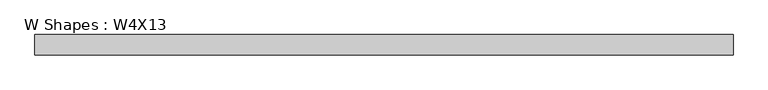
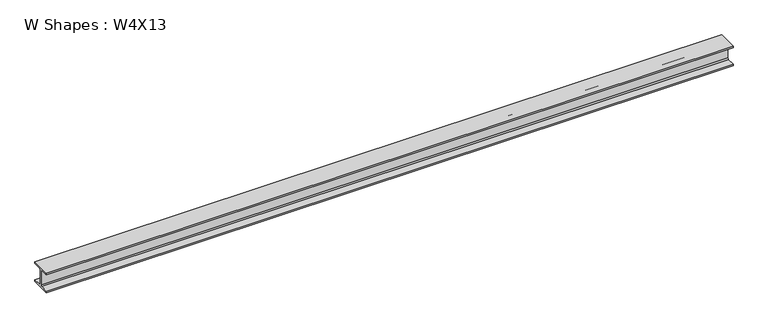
"""IFC4 building model written with IfcOpenShell, lengths in millimetres: beam geometry, W Shapes : W4X13."""

from ifc_helpers import new_model, si_unit, point, frame, frame_2d, origin, place, context, project, spatial, polyline, circle_curve, trimmed, segment, composite_curve, outline, extrude, source, transform, mapped, element, save


def w_shapes_w4x13_d1906dc2(model_context):
    return source(origin(), model_context, "Body", "SweptSolid", [
        extrude(outline(composite_curve([segment(polyline([(51.562, -44.069), (51.562, -52.832), (-51.562, -52.832), (-51.562, -44.069), (-9.906, -44.069)]), True, "CONTINUOUS"), segment(trimmed(circle_curve(frame_2d((-9.906, -37.719)), 6.35), [point((-9.906, -44.069))], [point((-3.556, -37.719))], True, "CARTESIAN"), True, "CONTINUOUS"), segment(polyline([(-3.556, -37.719), (-3.556, 37.719)]), True, "CONTINUOUS"), segment(trimmed(circle_curve(frame_2d((-9.906, 37.719)), 6.35), [point((-3.556, 37.719))], [point((-9.906, 44.069))], True, "CARTESIAN"), True, "CONTINUOUS"), segment(polyline([(-9.906, 44.069), (-51.562, 44.069), (-51.562, 52.832), (51.562, 52.832), (51.562, 44.069), (9.906, 44.069)]), True, "CONTINUOUS"), segment(trimmed(circle_curve(frame_2d((9.906, 37.719)), 6.35), [point((9.906, 44.069))], [point((3.556, 37.719))], True, "CARTESIAN"), True, "CONTINUOUS"), segment(polyline([(3.556, 37.719), (3.556, -37.719)]), True, "CONTINUOUS"), segment(trimmed(circle_curve(frame_2d((9.906, -37.719)), 6.35), [point((3.556, -37.719))], [point((9.906, -44.069))], True, "CARTESIAN"), True, "CONTINUOUS"), segment(polyline([(9.906, -44.069), (51.562, -44.069)]), True, "CONTINUOUS")], self_intersect=False)), frame((-1835.023, 0.0, 0.0), z_axis=(1.0, 0.0, 0.0), x_axis=(0.0, 1.0, 0.0)), (0.0, 0.0, 1.0), 3538.093),
    ])


if __name__ == "__main__":
    model = new_model("IFC4")
    model_context = context("Model", 3, world=origin())
    ifc_project = project(units=[si_unit("LENGTHUNIT", "METRE", prefix="MILLI")], contexts=[model_context])
    site = spatial("IfcSite", under=ifc_project)
    building = spatial("IfcBuilding", under=site)
    placement = place(None, origin())
    w_shapes_w4x13_shape = w_shapes_w4x13_d1906dc2(model_context)
    element("IfcBeam", 1, ObjectType="W Shapes : W4X13", at=placement, inside=building, context=model_context, shape_type="MappedRepresentation", body=[
        mapped(w_shapes_w4x13_shape, transform((0.0, 0.0, 0.0), x_axis=(1.0, 0.0, 0.0), y_axis=(0.0, 1.0, 0.0), z_axis=(0.0, 0.0, 1.0))),
    ])
    save(model, "model.ifc")
